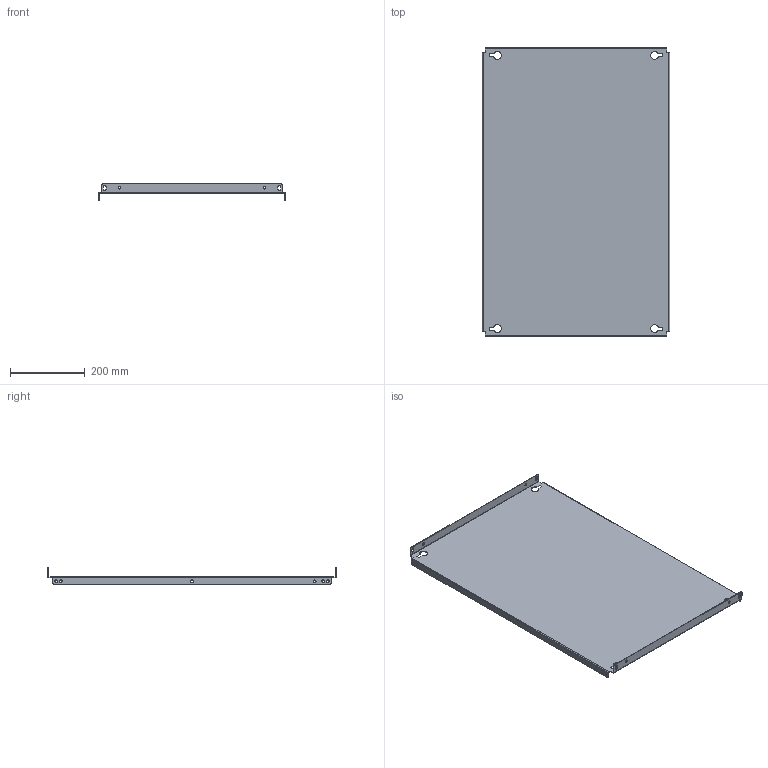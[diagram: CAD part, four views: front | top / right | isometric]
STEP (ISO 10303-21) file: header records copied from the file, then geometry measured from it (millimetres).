
FILE_DESCRIPTION (( 'STEP AP203' ), '1' );
FILE_NAME ('R5PPS8006.STEP', '2021-12-20T06:53:35', ( '' ), ( '' ), 'SwSTEP 2.0', 'SolidWorks 2020', '' );
FILE_SCHEMA (( 'CONFIG_CONTROL_DESIGN' ));
Length unit declared in the file: millimetre
Products named in the file (1): R5PPS8006
Bounding box: 500 x 769 x 43 mm (x, y, z)
Volume: 856457.2 mm3; surface area: 863536 mm2
Topology: 1 solids, 1 shells, 140 faces, 382 edges, 244 vertices
Faces by surface type: cylinder 82, plane 58
Entity records: 4627 total; most frequent: DIRECTION 828, CARTESIAN_POINT 767, ORIENTED_EDGE 764, EDGE_CURVE 382, AXIS2_PLACEMENT_3D 305, VERTEX_POINT 244, VECTOR 218, LINE 218
